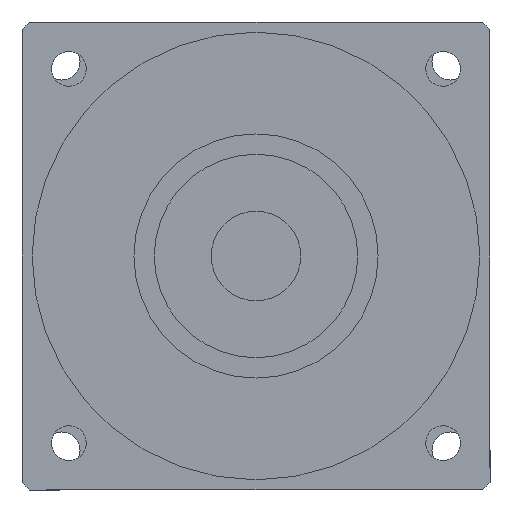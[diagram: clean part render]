
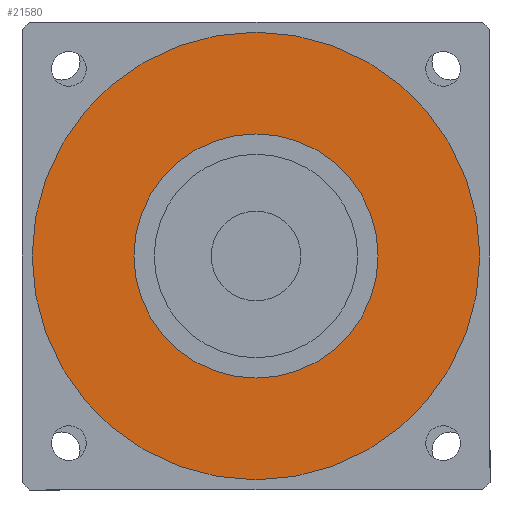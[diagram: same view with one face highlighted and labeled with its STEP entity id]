
A CAD part, left-side view. The second image highlights one B-rep face of the part: STEP entity #21580.
In plain terms, the highlighted planar face has unit normal (-1, 0, 0) as drawn and (0, 0, -1) by its records, which use the part's own axes.
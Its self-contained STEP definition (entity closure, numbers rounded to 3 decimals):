
#21000=CARTESIAN_POINT('',(-55.,0.,-115.5));
#21010=VERTEX_POINT('',#21000);
#21100=CARTESIAN_POINT('',(55.,0.,-115.5));
#21110=VERTEX_POINT('',#21100);
#21140=CARTESIAN_POINT('',(0.,0.,
-115.5));
#21150=DIRECTION('',(0.,0.,1.));
#21160=DIRECTION('',(0.,-1.,0.));
#21170=AXIS2_PLACEMENT_3D('',#21140,#21150,#21160);
#21180=CIRCLE('',#21170,55.);
#21190=CARTESIAN_POINT('',(0.,-55.,-115.5));
#21200=VERTEX_POINT('',#21190);
#21210=EDGE_CURVE('',#21200,#21110,#21180,.T.);
#21230=EDGE_CURVE('',#21010,#21200,#21180,.T.);
#21280=CARTESIAN_POINT('',(0.,0.,
-115.5));
#21290=DIRECTION('',(0.,0.,1.));
#21300=DIRECTION('',(-1.,0.,0.));
#21310=AXIS2_PLACEMENT_3D('',#21280,#21290,#21300);
#21320=PLANE('',#21310);
#21330=ORIENTED_EDGE('',*,*,#21210,.F.);
#21340=EDGE_CURVE('',#21110,#21010,#21180,.T.);
#21350=ORIENTED_EDGE('',*,*,#21340,.F.);
#21360=ORIENTED_EDGE('',*,*,#21230,.F.);
#21370=EDGE_LOOP('',(#21360,#21350,#21330));
#21380=FACE_OUTER_BOUND('',#21370,.T.);
#21390=CARTESIAN_POINT('',(0.,0.,
-115.5));
#21400=DIRECTION('',(0.,0.,1.));
#21410=DIRECTION('',(0.,-1.,0.));
#21420=AXIS2_PLACEMENT_3D('',#21390,#21400,#21410);
#21430=CIRCLE('',#21420,30.);
#21440=CARTESIAN_POINT('',(30.,0.,-115.5));
#21450=VERTEX_POINT('',#21440);
#21460=CARTESIAN_POINT('',(-30.,0.,-115.5));
#21470=VERTEX_POINT('',#21460);
#21480=EDGE_CURVE('',#21450,#21470,#21430,.T.);
#21490=ORIENTED_EDGE('',*,*,#21480,.T.);
#21500=CARTESIAN_POINT('',(0.,-30.,-115.5));
#21510=VERTEX_POINT('',#21500);
#21520=EDGE_CURVE('',#21510,#21450,#21430,.T.);
#21530=ORIENTED_EDGE('',*,*,#21520,.T.);
#21540=EDGE_CURVE('',#21470,#21510,#21430,.T.);
#21550=ORIENTED_EDGE('',*,*,#21540,.T.);
#21560=EDGE_LOOP('',(#21550,#21530,#21490));
#21570=FACE_BOUND('',#21560,.T.);
#21580=ADVANCED_FACE('',(#21380,#21570),#21320,.F.);
